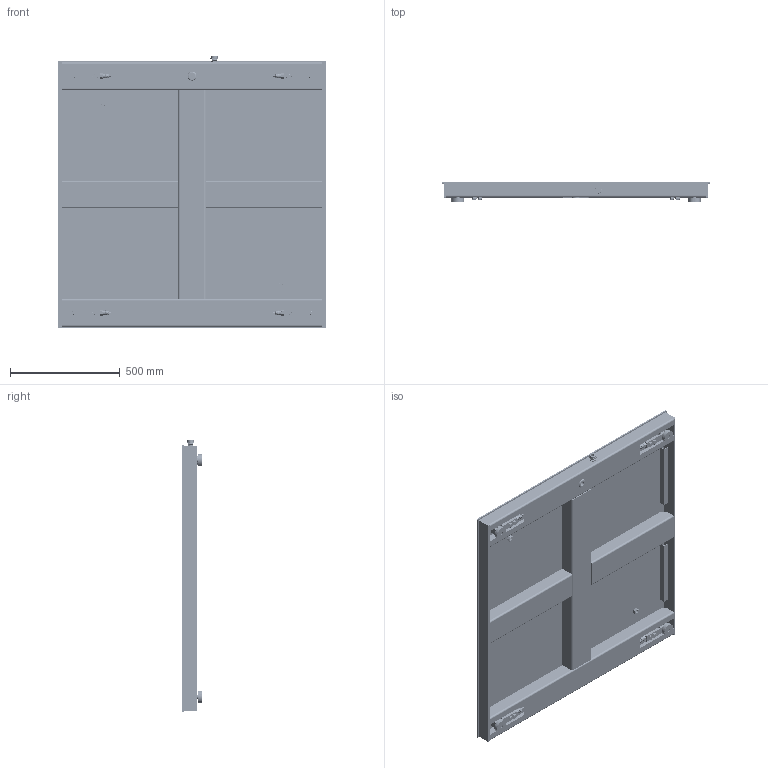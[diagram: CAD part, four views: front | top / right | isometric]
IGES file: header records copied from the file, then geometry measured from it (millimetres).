
Start section: SolidWorks IGES file using analytic representation for surfaces
Global section: file name: C:\0_Work\SolidWorks\~0_B-TEK Floor Scale\FS Series Floor Scales\48 x 48\HIFS-4848 Series.IGS; native system: SolidWorks 2017; preprocessor: SolidWorks 2017; author: vach01; date: 191017.080510; units: inch
Bounding box: 1219.2 x 92.09 x 1241.42 mm (x, y, z)
Surface area: 6314784.5 mm2 (no closed solid volume)
Topology: 0 solids, 0 shells, 20054 faces, 182023 edges, 181979 vertices
Faces by surface type: bspline 15532, revolution 4522
